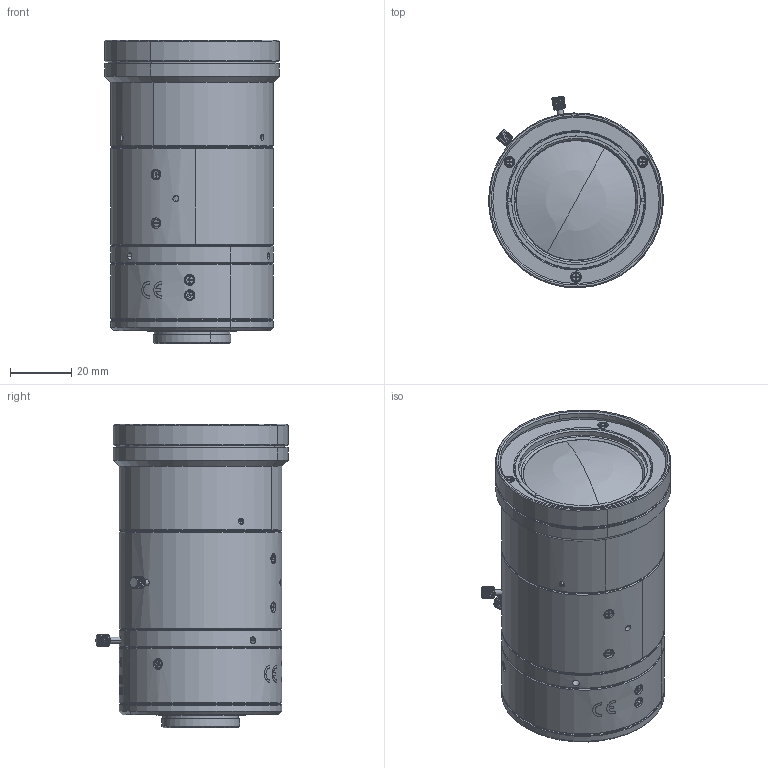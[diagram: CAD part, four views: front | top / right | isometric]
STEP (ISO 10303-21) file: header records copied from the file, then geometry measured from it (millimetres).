
FILE_DESCRIPTION(('CATIA V5 STEP Exchange'),'2;1');
FILE_NAME('\\Cadsys-srv224\13_特機設技-秘\01_機構設計\01_機種別\00.開発・量産機種\CATIA_data\EC003E0000(M694 f=16)\07_to客先\11_TEG\外観3D\M111FM16.stp','2015-01-29T07:06:33+00:00',('none'),('none'),'CATIA Version 5 Release 19 SP 8 (IN-10)','CATIA V5 STEP AP203','none');
FILE_SCHEMA(('CONFIG_CONTROL_DESIGN'));
Products named in the file (1): M111FM16
Bounding box: 56.98 x 62.57 x 98.87 mm (x, y, z)
Volume: 202095.1 mm3; surface area: 31891.8 mm2
Topology: 1 solids, 18 shells, 2345 faces, 6363 edges, 4152 vertices
Faces by surface type: bspline 1319, plane 336, cylinder 327, cone 325, torus 32, sphere 6
Entity records: 90933 total; most frequent: CARTESIAN_POINT 45758, ORIENTED_EDGE 12646, EDGE_CURVE 6323, B_SPLINE_CURVE_WITH_KNOTS 4408, VERTEX_POINT 4152, DIRECTION 3463, EDGE_LOOP 2529, ADVANCED_FACE 2345
